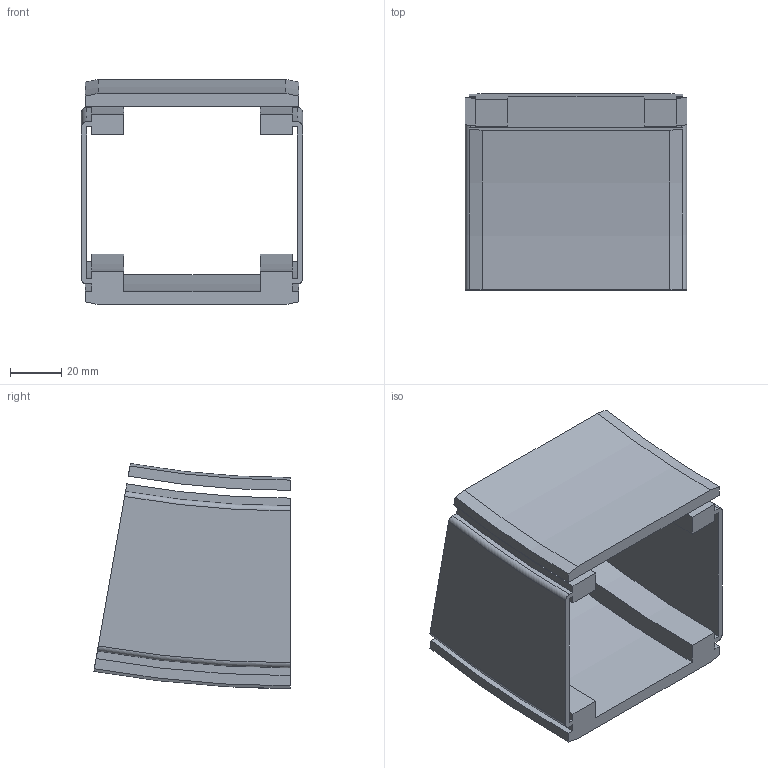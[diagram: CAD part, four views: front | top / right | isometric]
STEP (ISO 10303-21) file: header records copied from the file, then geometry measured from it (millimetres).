
FILE_DESCRIPTION(/* description */ ('VERTIKALKURVA S530 R400'),/* implementation_level */ '2;1');
FILE_NAME(/* name */ '530-5645+830-2000-NER-01.stp',/* time_stamp */ '2022-09-21T07:08:54+02:00',/* author */ ('Mathias.Dore'),/* organization */ ('CARRYLINE'),/* preprocessor_version */ 'ST-DEVELOPER v19.2',/* originating_system */ 'Autodesk Inventor 2023',/* authorisation */ '');
FILE_SCHEMA (('AUTOMOTIVE_DESIGN { 1 0 10303 214 3 1 1 }'));
Length unit declared in the file: millimetre
Products named in the file (1): 530-5645+830-2000-NER-01
Bounding box: 86 x 76.32 x 87.43 mm (x, y, z)
Volume: 103424.4 mm3; surface area: 52778.4 mm2
Topology: 2 solids, 2 shells, 87 faces, 234 edges, 156 vertices
Faces by surface type: plane 40, cylinder 25, bspline 14, cone 4, torus 4
Entity records: 7354 total; most frequent: CARTESIAN_POINT 5155, ORIENTED_EDGE 468, DIRECTION 408, EDGE_CURVE 234, VERTEX_POINT 156, AXIS2_PLACEMENT_3D 141, LINE 126, VECTOR 126
